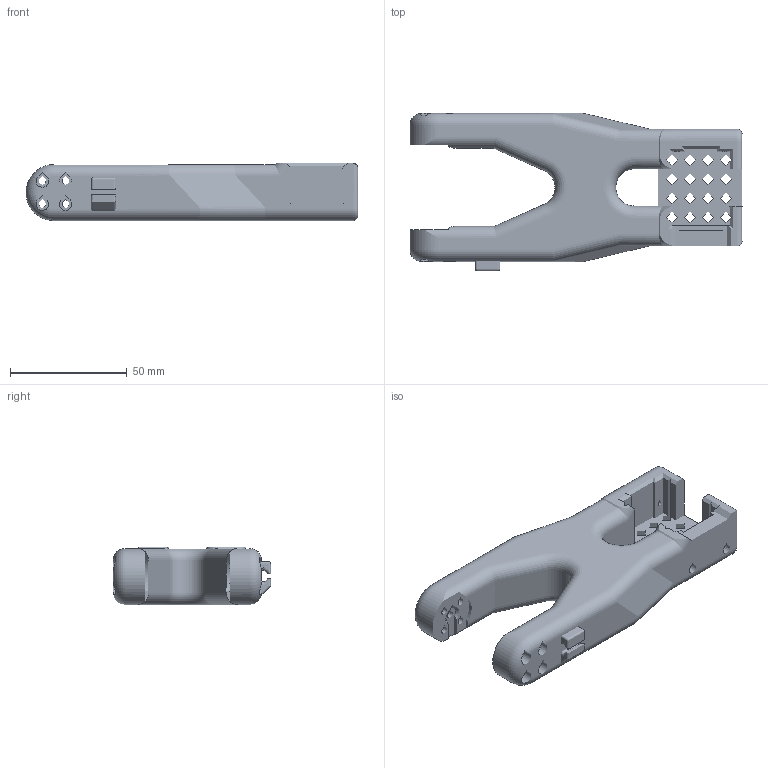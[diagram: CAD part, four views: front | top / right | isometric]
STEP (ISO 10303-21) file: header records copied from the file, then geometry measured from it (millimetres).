
FILE_DESCRIPTION(/* description */ ('STEP AP242 Edition 2','CAx-IF Rec.Pracs.---Representation and Presentation of Product Manufacturing Information (PMI)---4.0---2014-10-13','CAx-IF Rec.Pracs.---3D Tessellated Geometry---0.4---2014-09-14','2;1','CAx-IF Rec.Pracs.---User Defined Attributes---1.5---2016-08-15'),/* implementation_level */ '2;1');
FILE_NAME(/* name */ 'BambuLabA1mini_Leader_SO101 - Part 8',/* time_stamp */ '2026-11-25T15:08:23Z',/* author */ (''),/* organization */ (''),/* preprocessor_version */ 'ST-DEVELOPER v20',/* originating_system */ 'ONSHAPE BY PTC INC, 1.224',/* authorisation */ ' ');
FILE_SCHEMA (('AP242_MANAGED_MODEL_BASED_3D_ENGINEERING_MIM_LF { 1 0 10303 442 3 1 4 }'));
Length unit declared in the file: metre
Products named in the file (1): Part 8
Bounding box: 142.15 x 67.3 x 24.5 mm (x, y, z)
Surface area: 27902.9 mm2 (no closed solid volume)
Topology: 0 solids, 1 shells, 1 faces, 0 edges, 0 vertices
Faces by surface type: other 1
Entity records: 38 total; most frequent: STYLED_ITEM 2, PRESENTATION_STYLE_ASSIGNMENT 2, SURFACE_STYLE_USAGE 2, SURFACE_SIDE_STYLE 2, SURFACE_STYLE_FILL_AREA 2, FILL_AREA_STYLE 2, FILL_AREA_STYLE_COLOUR 2, DIRECTION 2
